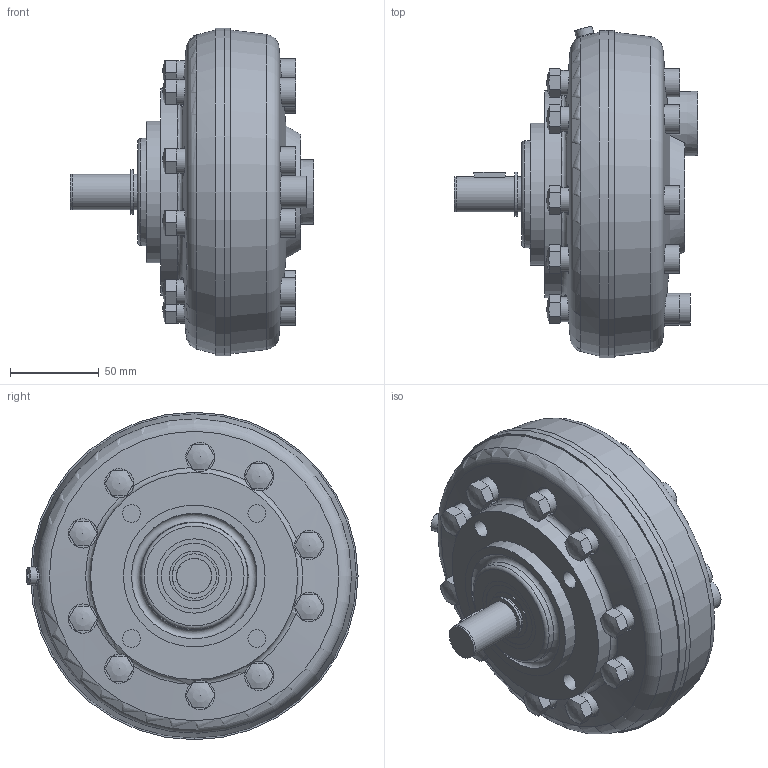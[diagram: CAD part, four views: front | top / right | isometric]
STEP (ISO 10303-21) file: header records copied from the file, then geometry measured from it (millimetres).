
FILE_DESCRIPTION( ( 'STEP AP214' ), '1' );
FILE_NAME( '//HAWE-GROUP.COM/HOME01/KohlhaufM/3D Komponenten/HAWE-R-Pumpe-7,0.stp', '2019-03-13T14:26:52', ( '' ), ( '' ), ' ', 'PARTsolutions', ' ' );
FILE_SCHEMA( ( 'AUTOMOTIVE_DESIGN { 1 0 10303 214 1 1 1 1 }' ) );
Length unit declared in the file: millimetre
Products named in the file (9): 140327391 HAWE 6011-5Zy-1DA_1d; _HAWE 6011-5Zy-1DA_1d; _HAWE ZylSc DIN4762 M10x600; _HAWE Druckanschluss-6010033; _HAWE LagSc-5Zyl; _HAWE Wellendichtring-B1-20x42x7-DIN3760; _HAWE Welle-6011007; _HAWE Hutmutter-6010010; _HAWE M6x6_zs_usr_m6
Assembly tree (26 placements, depth 2):
  140327391 HAWE 6011-5Zy-1DA_1d
    _HAWE 6011-5Zy-1DA_1d
    _HAWE ZylSc DIN4762 M10x600  x10
    _HAWE Druckanschluss-6010033
    _HAWE LagSc-5Zyl
    _HAWE Wellendichtring-B1-20x42x7-DIN3760
    _HAWE Welle-6011007
    _HAWE Hutmutter-6010010  x10
    _HAWE M6x6_zs_usr_m6
Bounding box: 137.5 x 187.5 x 185 mm (x, y, z)
Volume: 653568.8 mm3; surface area: 246436.8 mm2
Topology: 26 solids, 26 shells, 529 faces, 1188 edges, 775 vertices
Faces by surface type: plane 282, cylinder 127, cone 85, torus 25, sphere 10
Full cylindrical faces by diameter (mm): 3 x1, 5 x1, 6 x2, 7 x1, 10 x25, 10.2 x1, 10.5 x20, 11 x1, 11.5 x2, 13.16 x1, 13.8 x1, 14 x10, 16 x10, 16.5 x20, 18 x3, 20 x3, 21 x1, 22 x1, 25 x1, 26 x1, 26.44 x1, 28 x1, 37 x1, 40 x1, 42 x2, 51.98 x1, 52 x1, 72 x1, 80 x1, 108 x1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
Entity records: 11511 total; most frequent: CARTESIAN_POINT 3746, DIRECTION 1174, ORIENTED_EDGE 866, AXIS2_PLACEMENT_3D 549, EDGE_LOOP 494, EDGE_CURVE 433, FACE_OUTER_BOUND 370, VERTEX_POINT 352
